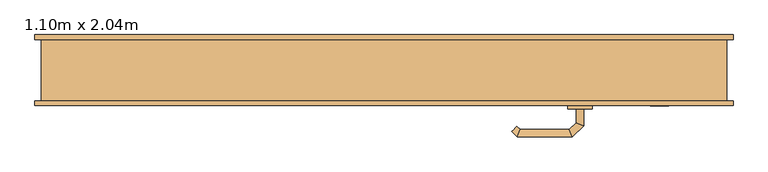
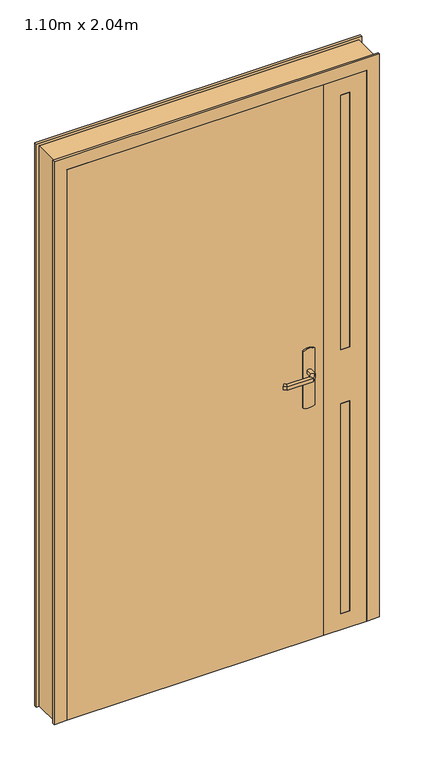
"""IFC4 building model written with IfcOpenShell, lengths in millimetres: door geometry, Tierce  160 : 1.10m x 2.04m."""

from ifc_helpers import new_model, si_unit, point, frame, frame_2d, origin, origin_with_axes, place, context, project, spatial, polyline, circle_curve, ellipse_curve, trimmed, segment, composite_curve, outline, extrude, faceted_brep, source, transform, mapped, element, save
from ifc_brep_helpers import plane_surface, cylinder_surface, advanced_brep


def door_1_10m_x_2_04m_0ed3c462(model_context):
    return source(origin(), model_context, "Body", "SolidModel", [
        advanced_brep(
        [(314.0, -13.0, 993.0), (326.0, -13.0, 993.0), (326.0, -13.0, 1007.0), (314.0, -13.0, 1007.0), (314.0, 9.4852045, 1007.0), (314.0, 9.4852045, 993.0), (326.0, 14.4557673, 1007.0), (326.0, 14.4557673, 993.0), (302.5147186, 20.9704859, 1007.0), (302.5147186, 20.9704859, 993.0), (307.4852814, 32.9704859, 1007.0), (307.4852814, 32.9704859, 993.0), (222.4394977, 20.9704859, 1007.0), (222.4394977, 20.9704859, 993.0), (217.468935, 32.9704859, 1007.0), (217.468935, 32.9704859, 993.0), (217.1257892, 15.6567774, 993.0), (217.1257892, 15.6567774, 1007.0), (208.6405078, 24.1420588, 1007.0), (208.6405078, 24.1420588, 993.0)],
        [
            (0, 1, circle_curve(frame((320.0, -13.0, 1013.0457722), z_axis=(0.0, -1.0, 0.0), x_axis=(1.0, 0.0, 0.0)), 20.9244589)),
            (1, 2),
            (2, 3, circle_curve(frame((320.0, -13.0, 986.9542278), z_axis=(0.0, -1.0, 0.0), x_axis=(1.0, 0.0, 0.0)), 20.9244589)),
            (3, 0),
            (3, 4),
            (4, 5),
            (5, 0),
            (2, 6),
            (6, 4, ellipse_curve(frame((320.0, 11.9704859, 986.9542278), z_axis=(0.38268343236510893, -0.9238795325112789, 0.0), x_axis=(-0.9238795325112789, -0.3826834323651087, 0.0)), 22.6484711, 20.9244589)),
            (1, 7),
            (7, 6),
            (5, 7, ellipse_curve(frame((320.0, 11.9704859, 1013.0457722), z_axis=(0.38268343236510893, -0.9238795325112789, 0.0), x_axis=(-0.9238795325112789, -0.3826834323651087, 0.0)), 22.6484711, 20.9244589)),
            (4, 8),
            (8, 9),
            (9, 5),
            (6, 10),
            (10, 8, ellipse_curve(frame((305.0, 26.9704859, 986.9542278), z_axis=(0.9238795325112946, -0.38268343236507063, 0.0), x_axis=(-0.3826834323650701, -0.9238795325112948, 0.0)), 22.6484711, 20.9244589)),
            (7, 11),
            (11, 10),
            (9, 11, ellipse_curve(frame((305.0, 26.9704859, 1013.0457722), z_axis=(0.9238795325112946, -0.38268343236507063, 0.0), x_axis=(-0.3826834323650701, -0.9238795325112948, 0.0)), 22.6484711, 20.9244589)),
            (8, 12),
            (12, 13),
            (13, 9),
            (10, 14),
            (14, 12, ellipse_curve(frame((219.9542163, 26.9704859, 986.9542278), z_axis=(0.9238795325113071, 0.38268343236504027, 0.0), x_axis=(0.38268343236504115, -0.9238795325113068, 0.0)), 22.6484711, 20.9244589)),
            (11, 15),
            (15, 14),
            (13, 15, ellipse_curve(frame((219.9542163, 26.9704859, 1013.0457722), z_axis=(0.9238795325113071, 0.38268343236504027, 0.0), x_axis=(0.38268343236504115, -0.9238795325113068, 0.0)), 22.6484711, 20.9244589)),
            (16, 17),
            (17, 18, circle_curve(frame((212.8831485, 19.8994181, 986.9542278), z_axis=(-0.7071067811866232, -0.7071067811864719, 0.0), x_axis=(-0.7071067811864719, 0.7071067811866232, 0.0)), 20.9244589)),
            (18, 19),
            (19, 16, circle_curve(frame((212.8831485, 19.8994181, 1013.0457722), z_axis=(-0.7071067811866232, -0.7071067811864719, 0.0), x_axis=(-0.7071067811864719, 0.7071067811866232, 0.0)), 20.9244589)),
            (12, 17),
            (16, 13),
            (14, 18),
            (15, 19),
        ],
        [
            plane_surface(frame((329.2195445, -13.0, 1000.0), z_axis=(0.0, -1.0, 0.0), x_axis=(0.0, 0.0, 1.0))),
            plane_surface(frame((314.0, -13.0, 993.0), z_axis=(-1.0, 0.0, 0.0), x_axis=(0.0, 1.0, 0.0))),
            cylinder_surface(frame((320.0, -13.0, 986.9542278), z_axis=(0.0, -1.0, 0.0), x_axis=(1.0, 0.0, 0.0)), 20.9244589),
            plane_surface(frame((326.0, -13.0, 1007.0), z_axis=(1.0, 0.0, 0.0), x_axis=(0.0, 1.0, 0.0))),
            cylinder_surface(frame((320.0, -13.0, 1013.0457722), z_axis=(0.0, -1.0, 0.0), x_axis=(1.0, 0.0, 0.0)), 20.9244589),
            plane_surface(frame((314.0, 9.4852045, 993.0), z_axis=(-0.707106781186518, -0.707106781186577, 0.0), x_axis=(-0.707106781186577, 0.707106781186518, 0.0))),
            cylinder_surface(frame((320.0, 11.9704859, 986.9542278), z_axis=(0.7071067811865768, -0.7071067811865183, 0.0), x_axis=(0.7071067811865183, 0.7071067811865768, 0.0)), 20.9244589),
            plane_surface(frame((326.0, 14.4557673, 1007.0), z_axis=(0.7071067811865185, 0.7071067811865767, 0.0), x_axis=(-0.7071067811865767, 0.7071067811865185, 0.0))),
            cylinder_surface(frame((320.0, 11.9704859, 1013.0457722), z_axis=(0.7071067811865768, -0.7071067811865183, 0.0), x_axis=(0.7071067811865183, 0.7071067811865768, 0.0)), 20.9244589),
            plane_surface(frame((302.5147186, 20.9704859, 993.0), z_axis=(0.0, -1.0, 0.0), x_axis=(-1.0, 0.0, 0.0))),
            cylinder_surface(frame((305.0, 26.9704859, 986.9542278), z_axis=(1.0, 0.0, 0.0), x_axis=(0.0, 1.0, 0.0)), 20.9244589),
            plane_surface(frame((307.4852814, 32.9704859, 1007.0), z_axis=(0.0, 1.0, 0.0), x_axis=(-1.0, 0.0, 0.0))),
            cylinder_surface(frame((305.0, 26.9704859, 1013.0457722), z_axis=(1.0, 0.0, 0.0), x_axis=(0.0, 1.0, 0.0)), 20.9244589),
            plane_surface(frame((212.8831485, 19.8994181, 990.7804555), z_axis=(-0.7071067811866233, -0.7071067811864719, 0.0), x_axis=(-0.7071067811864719, 0.7071067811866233, 0.0))),
            plane_surface(frame((222.4394977, 20.9704859, 993.0), z_axis=(0.707106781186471, -0.7071067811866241, 0.0), x_axis=(-0.7071067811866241, -0.707106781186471, 0.0))),
            cylinder_surface(frame((219.9542163, 26.9704859, 986.9542278), z_axis=(0.7071067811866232, 0.7071067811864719, 0.0), x_axis=(-0.7071067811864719, 0.7071067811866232, 0.0)), 20.9244589),
            plane_surface(frame((217.468935, 32.9704859, 1007.0), z_axis=(-0.7071067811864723, 0.7071067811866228, 0.0), x_axis=(-0.7071067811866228, -0.7071067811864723, 0.0))),
            cylinder_surface(frame((219.9542163, 26.9704859, 1013.0457722), z_axis=(0.7071067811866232, 0.7071067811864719, 0.0), x_axis=(-0.7071067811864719, 0.7071067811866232, 0.0)), 20.9244589),
        ],
        [
            (0, [[1, 2, 3, 4]]),
            (1, [[5, 6, 7, -4]]),
            (2, [[8, 9, -5, -3]]),
            (3, [[10, 11, -8, -2]]),
            (4, [[-7, 12, -10, -1]]),
            (5, [[13, 14, 15, -6]]),
            (6, [[16, 17, -13, -9]]),
            (7, [[18, 19, -16, -11]]),
            (8, [[-15, 20, -18, -12]]),
            (9, [[21, 22, 23, -14]]),
            (10, [[24, 25, -21, -17]]),
            (11, [[26, 27, -24, -19]]),
            (12, [[-23, 28, -26, -20]]),
            (13, [[29, 30, 31, 32]]),
            (14, [[33, -29, 34, -22]]),
            (15, [[35, -30, -33, -25]]),
            (16, [[36, -31, -35, -27]]),
            (17, [[-34, -32, -36, -28]]),
        ],
    ),
        advanced_brep(
        [(326.0, -63.0, 1007.0), (326.0, -63.0, 993.0), (314.0, -63.0, 993.0), (314.0, -63.0, 1007.0), (314.0, -85.680388, 1007.0), (326.0, -90.6509507, 1007.0), (314.0, -85.680388, 993.0), (326.0, -90.6509507, 993.0), (302.6522273, -97.0281607, 1007.0), (307.62279, -109.0281607, 1007.0), (302.6522273, -97.0281607, 993.0), (307.62279, -109.0281607, 993.0), (222.4666408, -97.0281607, 1007.0), (217.496078, -109.0281607, 1007.0), (222.4666408, -97.0281607, 993.0), (217.496078, -109.0281607, 993.0), (208.6676509, -100.1997336, 1007.0), (217.1529323, -91.7144522, 1007.0), (217.1529323, -91.7144522, 993.0), (208.6676509, -100.1997336, 993.0)],
        [
            (0, 1),
            (1, 2, circle_curve(frame((320.0, -63.0, 1013.0457722), z_axis=(0.0, 1.0, 0.0), x_axis=(-1.0, 0.0, 0.0)), 20.9244589)),
            (2, 3),
            (3, 0, circle_curve(frame((320.0, -63.0, 986.9542278), z_axis=(0.0, 1.0, 0.0), x_axis=(-1.0, 0.0, 0.0)), 20.9244589)),
            (3, 4),
            (4, 5, ellipse_curve(frame((320.0, -88.1656693, 986.9542278), z_axis=(0.3826834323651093, 0.9238795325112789, 0.0), x_axis=(-0.9238795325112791, 0.38268343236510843, 0.0)), 22.6484711, 20.9244589)),
            (5, 0),
            (2, 6),
            (6, 4),
            (1, 7),
            (7, 6, ellipse_curve(frame((320.0, -88.1656693, 1013.0457722), z_axis=(0.3826834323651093, 0.9238795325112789, 0.0), x_axis=(-0.9238795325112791, 0.38268343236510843, 0.0)), 22.6484711, 20.9244589)),
            (5, 7),
            (4, 8),
            (8, 9, ellipse_curve(frame((305.1375086, -103.0281607, 986.9542278), z_axis=(0.9238795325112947, 0.38268343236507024, 0.0), x_axis=(-0.3826834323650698, 0.9238795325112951, 0.0)), 22.6484711, 20.9244589)),
            (9, 5),
            (6, 10),
            (10, 8),
            (7, 11),
            (11, 10, ellipse_curve(frame((305.1375086, -103.0281607, 1013.0457722), z_axis=(0.9238795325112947, 0.38268343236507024, 0.0), x_axis=(-0.3826834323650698, 0.9238795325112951, 0.0)), 22.6484711, 20.9244589)),
            (9, 11),
            (8, 12),
            (12, 13, ellipse_curve(frame((219.9813594, -103.0281607, 986.9542278), z_axis=(0.9238795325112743, -0.3826834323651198, 0.0), x_axis=(0.38268343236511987, 0.9238795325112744, 0.0)), 22.6484711, 20.9244589)),
            (13, 9),
            (10, 14),
            (14, 12),
            (11, 15),
            (15, 14, ellipse_curve(frame((219.9813594, -103.0281607, 1013.0457722), z_axis=(0.9238795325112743, -0.3826834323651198, 0.0), x_axis=(0.38268343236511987, 0.9238795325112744, 0.0)), 22.6484711, 20.9244589)),
            (13, 15),
            (16, 17, circle_curve(frame((212.9102916, -95.9570929, 986.9542278), z_axis=(-0.7071067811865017, 0.7071067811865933, 0.0), x_axis=(0.7071067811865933, 0.7071067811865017, 0.0)), 20.9244589)),
            (17, 18),
            (18, 19, circle_curve(frame((212.9102916, -95.9570929, 1013.0457722), z_axis=(-0.7071067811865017, 0.7071067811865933, 0.0), x_axis=(0.7071067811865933, 0.7071067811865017, 0.0)), 20.9244589)),
            (19, 16),
            (12, 17),
            (16, 13),
            (14, 18),
            (15, 19),
        ],
        [
            plane_surface(frame((329.2195445, -63.0, 1000.0), z_axis=(0.0, 1.0, 0.0), x_axis=(0.0, 0.0, -1.0))),
            cylinder_surface(frame((320.0, -63.0, 986.9542278), z_axis=(0.0, 1.0, 0.0), x_axis=(-1.0, 0.0, 0.0)), 20.9244589),
            plane_surface(frame((314.0, -63.0, 1007.0), z_axis=(-1.0, 0.0, 0.0), x_axis=(0.0, -1.0, 0.0))),
            cylinder_surface(frame((320.0, -63.0, 1013.0457722), z_axis=(0.0, 1.0, 0.0), x_axis=(-1.0, 0.0, 0.0)), 20.9244589),
            plane_surface(frame((326.0, -63.0, 993.0), z_axis=(1.0, 0.0, 0.0), x_axis=(0.0, -1.0, 0.0))),
            cylinder_surface(frame((320.0, -88.1656693, 986.9542278), z_axis=(0.7071067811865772, 0.7071067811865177, 0.0), x_axis=(-0.7071067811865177, 0.7071067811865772, 0.0)), 20.9244589),
            plane_surface(frame((314.0, -85.680388, 1007.0), z_axis=(-0.7071067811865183, 0.7071067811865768, 0.0), x_axis=(-0.7071067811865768, -0.7071067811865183, 0.0))),
            cylinder_surface(frame((320.0, -88.1656693, 1013.0457722), z_axis=(0.7071067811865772, 0.7071067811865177, 0.0), x_axis=(-0.7071067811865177, 0.7071067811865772, 0.0)), 20.9244589),
            plane_surface(frame((326.0, -90.6509507, 993.0), z_axis=(0.707106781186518, -0.707106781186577, 0.0), x_axis=(-0.707106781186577, -0.707106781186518, 0.0))),
            cylinder_surface(frame((305.1375086, -103.0281607, 986.9542278), z_axis=(1.0, 0.0, 0.0), x_axis=(0.0, 1.0, 0.0)), 20.9244589),
            plane_surface(frame((302.6522273, -97.0281607, 1007.0), z_axis=(0.0, 1.0, 0.0), x_axis=(-1.0, 0.0, 0.0))),
            cylinder_surface(frame((305.1375086, -103.0281607, 1013.0457722), z_axis=(1.0, 0.0, 0.0), x_axis=(0.0, 1.0, 0.0)), 20.9244589),
            plane_surface(frame((307.62279, -109.0281607, 993.0), z_axis=(0.0, -1.0, 0.0), x_axis=(-1.0, 0.0, 0.0))),
            plane_surface(frame((212.9102916, -95.9570929, 1009.2195445), z_axis=(-0.7071067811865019, 0.7071067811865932, 0.0), x_axis=(-0.7071067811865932, -0.7071067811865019, 0.0))),
            cylinder_surface(frame((219.9813594, -103.0281607, 986.9542278), z_axis=(0.7071067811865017, -0.7071067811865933, 0.0), x_axis=(0.7071067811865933, 0.7071067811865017, 0.0)), 20.9244589),
            plane_surface(frame((222.4666408, -97.0281607, 1007.0), z_axis=(0.7071067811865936, 0.7071067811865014, 0.0), x_axis=(-0.7071067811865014, 0.7071067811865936, 0.0))),
            cylinder_surface(frame((219.9813594, -103.0281607, 1013.0457722), z_axis=(0.7071067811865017, -0.7071067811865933, 0.0), x_axis=(0.7071067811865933, 0.7071067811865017, 0.0)), 20.9244589),
            plane_surface(frame((217.496078, -109.0281607, 993.0), z_axis=(-0.707106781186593, -0.7071067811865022, 0.0), x_axis=(-0.7071067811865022, 0.707106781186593, 0.0))),
        ],
        [
            (0, [[1, 2, 3, 4]]),
            (1, [[5, 6, 7, -4]]),
            (2, [[8, 9, -5, -3]]),
            (3, [[10, 11, -8, -2]]),
            (4, [[-7, 12, -10, -1]]),
            (5, [[13, 14, 15, -6]]),
            (6, [[16, 17, -13, -9]]),
            (7, [[18, 19, -16, -11]]),
            (8, [[-15, 20, -18, -12]]),
            (9, [[21, 22, 23, -14]]),
            (10, [[24, 25, -21, -17]]),
            (11, [[26, 27, -24, -19]]),
            (12, [[-23, 28, -26, -20]]),
            (13, [[29, 30, 31, 32]]),
            (14, [[33, -29, 34, -22]]),
            (15, [[35, -30, -33, -25]]),
            (16, [[36, -31, -35, -27]]),
            (17, [[-34, -32, -36, -28]]),
        ],
    ),
        extrude(outline(composite_curve([segment(polyline([(1080.0, 300.0), (870.0, 300.0)]), True, "CONTINUOUS"), segment(trimmed(circle_curve(frame_2d((904.6410162, 320.0)), 40.0), [point((870.0, 300.0))], [point((870.0, 340.0))], False, "CARTESIAN"), True, "CONTINUOUS"), segment(polyline([(870.0, 340.0), (1080.0, 340.0)]), True, "CONTINUOUS"), segment(trimmed(circle_curve(frame_2d((1045.3589838, 320.0)), 40.0), [point((1080.0, 340.0))], [point((1080.0, 300.0))], False, "CARTESIAN"), True, "CONTINUOUS")], self_intersect=False)), frame((0.0, -18.0, 0.0), z_axis=(0.0, 1.0, 0.0), x_axis=(0.0, 0.0, 1.0)), (0.0, 0.0, 1.0), 5.0),
        extrude(outline(composite_curve([segment(polyline([(870.0, 340.0), (1080.0, 340.0)]), True, "CONTINUOUS"), segment(trimmed(circle_curve(frame_2d((1045.3589838, 320.0)), 40.0), [point((1080.0, 340.0))], [point((1080.0, 300.0))], False, "CARTESIAN"), True, "CONTINUOUS"), segment(polyline([(1080.0, 300.0), (870.0, 300.0)]), True, "CONTINUOUS"), segment(trimmed(circle_curve(frame_2d((904.6410162, 320.0)), 40.0), [point((870.0, 300.0))], [point((870.0, 340.0))], False, "CARTESIAN"), True, "CONTINUOUS")], self_intersect=False)), frame((0.0, -63.0, 0.0), z_axis=(0.0, 1.0, 0.0), x_axis=(0.0, 0.0, 1.0)), (0.0, 0.0, 1.0), 5.0),
        faceted_brep([(-560.0, -50.0, 0.0), (-560.0, 50.0, 0.0), (-570.0, 50.0, 0.0), (-570.0, 58.0, 0.0), (-510.0, 58.0, 0.0), (-510.0, -18.0, 0.0), (-525.0, -18.0, 0.0), (-525.0, -58.0, 0.0), (-570.0, -58.0, 0.0), (-570.0, -50.0, 0.0), (-560.0, -50.0, 2075.0), (-560.0, 50.0, 2075.0), (560.0, 50.0, 2075.0), (560.0, 50.0, 0.0), (570.0, 50.0, 0.0), (570.0, 50.0, 2085.0), (-570.0, 50.0, 2085.0), (-570.0, 58.0, 2085.0), (570.0, 58.0, 2085.0), (570.0, 58.0, 0.0), (510.0, 58.0, 0.0), (510.0, 58.0, 2025.0), (-510.0, 58.0, 2025.0), (-510.0, -18.0, 2025.0), (510.0, -18.0, 2025.0), (510.0, -18.0, 0.0), (525.0, -18.0, 0.0), (525.0, -18.0, 2040.0), (-525.0, -18.0, 2040.0), (-525.0, -58.0, 2040.0), (525.0, -58.0, 2040.0), (525.0, -58.0, 0.0), (570.0, -58.0, 0.0), (570.0, -58.0, 2085.0), (-570.0, -58.0, 2085.0), (-570.0, -50.0, 2085.0), (570.0, -50.0, 2085.0), (570.0, -50.0, 0.0), (560.0, -50.0, 0.0), (560.0, -50.0, 2075.0)], [[[0, 1, 2, 3, 4, 5, 6, 7, 8, 9]], [[1, 0, 10, 11]], [[2, 1, 11, 12, 13, 14, 15, 16]], [[3, 2, 16, 17]], [[4, 3, 17, 18, 19, 20, 21, 22]], [[5, 4, 22, 23]], [[6, 5, 23, 24, 25, 26, 27, 28]], [[7, 6, 28, 29]], [[8, 7, 29, 30, 31, 32, 33, 34]], [[9, 8, 34, 35]], [[0, 9, 35, 36, 37, 38, 39, 10]], [[12, 39, 38, 13]], [[38, 37, 32, 31, 26, 25, 20, 19, 14, 13]], [[18, 15, 14, 19]], [[24, 21, 20, 25]], [[30, 27, 26, 31]], [[36, 33, 32, 37]], [[11, 10, 39, 12]], [[17, 16, 15, 18]], [[23, 22, 21, 24]], [[29, 28, 27, 30]], [[35, 34, 33, 36]]]),
        extrude(outline(polyline([(465.0, -58.0), (435.0, -58.0), (435.0, -18.0), (465.0, -18.0), (465.0, -58.0)])), frame((0.0, 0.0, 60.0), z_axis=(0.0, 0.0, 1.0), x_axis=(1.0, 0.0, 0.0)), (0.0, 0.0, 1.0), 777.5),
        extrude(outline(polyline([(465.0, -58.0), (435.0, -58.0), (435.0, -18.0), (465.0, -18.0), (465.0, -58.0)])), frame((0.0, 0.0, 1037.5), z_axis=(0.0, 0.0, 1.0), x_axis=(1.0, 0.0, 0.0)), (0.0, 0.0, 1.0), 942.5),
        extrude(outline(polyline([(2040.0, 525.0), (2040.0, 375.0), (0.0, 375.0), (0.0, 525.0), (2040.0, 525.0)]), holes=[polyline([(837.5, 435.0), (837.5, 465.0), (60.0, 465.0), (60.0, 435.0), (837.5, 435.0)]), polyline([(1037.5, 465.0), (1037.5, 435.0), (1980.0, 435.0), (1980.0, 465.0), (1037.5, 465.0)])]), frame((0.0, -58.0, 0.0), z_axis=(0.0, 1.0, 0.0), x_axis=(0.0, 0.0, 1.0)), (0.0, 0.0, 1.0), 40.0),
        extrude(outline(polyline([(375.0, -58.0), (-525.0, -58.0), (-525.0, -18.0), (375.0, -18.0), (375.0, -58.0)])), origin_with_axes(), (0.0, 0.0, 1.0), 2040.0),
    ])


if __name__ == "__main__":
    model = new_model("IFC4")
    model_context = context("Model", 3, world=origin())
    ifc_project = project(units=[si_unit("LENGTHUNIT", "METRE", prefix="MILLI")], contexts=[model_context])
    site = spatial("IfcSite", under=ifc_project)
    building = spatial("IfcBuilding", under=site)
    placement = place(None, origin())
    door_1_10m_x_2_04m_shape = door_1_10m_x_2_04m_0ed3c462(model_context)
    element("IfcDoor", 1, ObjectType="Tierce  160 : 1.10m x 2.04m", at=placement, inside=building, context=model_context, shape_type="MappedRepresentation", body=[
        mapped(door_1_10m_x_2_04m_shape, transform((0.0, 0.0, 0.0), x_axis=(1.0, 0.0, 0.0), y_axis=(0.0, 1.0, 0.0), z_axis=(0.0, 0.0, 1.0))),
    ])
    save(model, "model.ifc")
